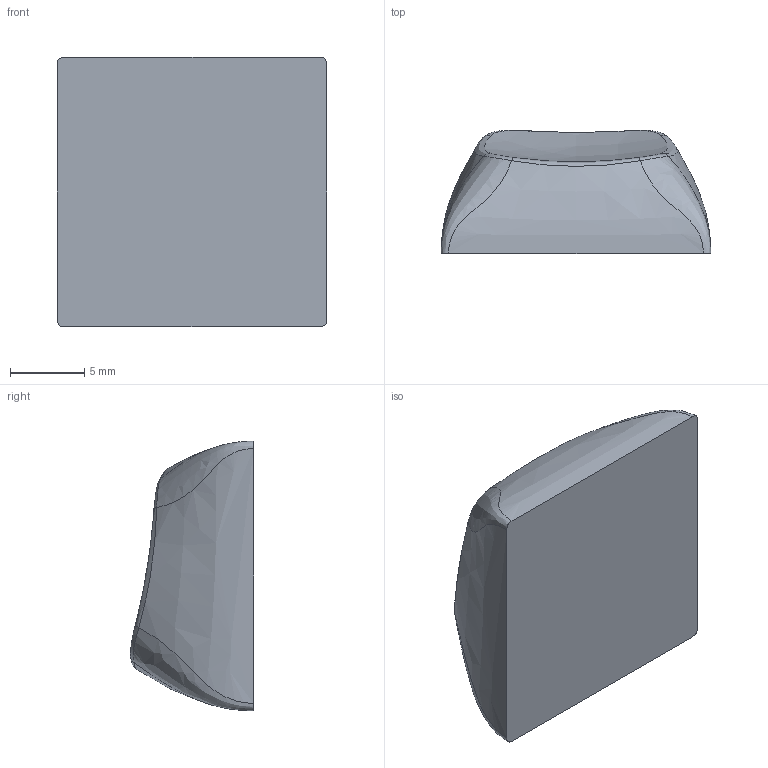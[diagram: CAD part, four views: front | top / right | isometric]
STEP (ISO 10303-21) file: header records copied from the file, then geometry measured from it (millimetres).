
FILE_DESCRIPTION (( 'STEP AP203' ), '1' );
FILE_NAME ('R4_1U_base_v3.2_GMK.STEP', '2023-03-07T10:12:47', ( '' ), ( '' ), 'SwSTEP 2.0', 'SolidWorks 2022', '' );
FILE_SCHEMA (( 'CONFIG_CONTROL_DESIGN' ));
Length unit declared in the file: millimetre
Products named in the file (1): R4_1U_base_v3.2_GMK
Bounding box: 18.2 x 8.31 x 18.2 mm (x, y, z)
Volume: 1905.9 mm3; surface area: 989.4 mm2
Topology: 1 solids, 1 shells, 18 faces, 40 edges, 24 vertices
Faces by surface type: bspline 17, plane 1
Entity records: 2988 total; most frequent: CARTESIAN_POINT 2645, ORIENTED_EDGE 80, EDGE_CURVE 40, B_SPLINE_CURVE_WITH_KNOTS 36, VERTEX_POINT 24, ADVANCED_FACE 18, EDGE_LOOP 18, FACE_OUTER_BOUND 18
